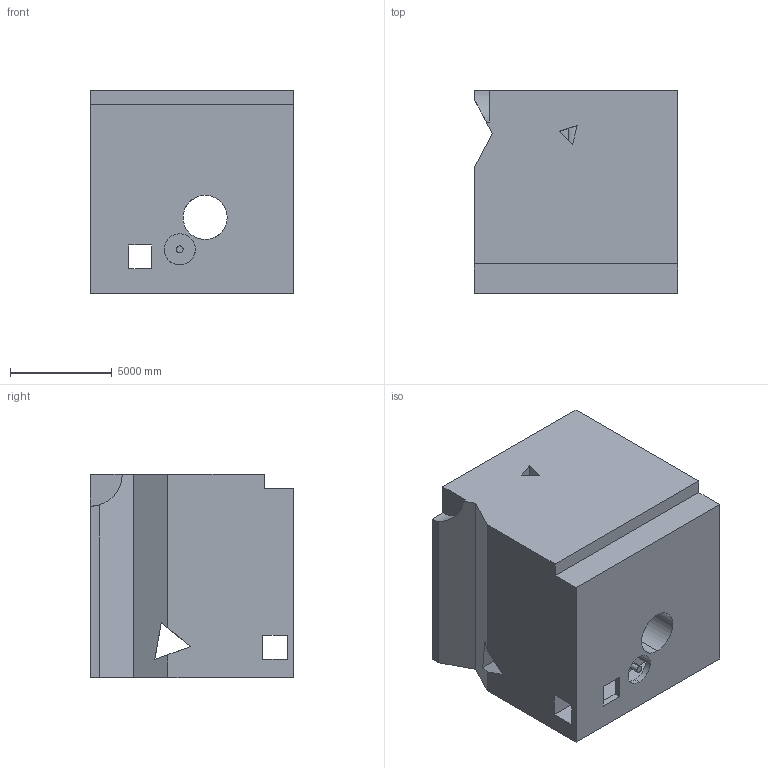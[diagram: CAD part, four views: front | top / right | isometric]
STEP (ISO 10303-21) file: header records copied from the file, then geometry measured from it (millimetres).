
FILE_DESCRIPTION (( 'STEP AP203' ), '1' );
FILE_NAME ('94.STEP', '2022-08-30T14:34:12', ( 'user' ), ( '' ), 'SwSTEP 2.0', 'SolidWorks 2021', '' );
FILE_SCHEMA (( 'CONFIG_CONTROL_DESIGN' ));
Length unit declared in the file: centimetre
Products named in the file (1): 94
Bounding box: 10000 x 10000 x 10000 mm (x, y, z)
Volume: 880074191832.6 mm3; surface area: 843692896.1 mm2
Topology: 1 solids, 1 shells, 52 faces, 168 edges, 112 vertices
Faces by surface type: plane 41, cylinder 11
Entity records: 2095 total; most frequent: CARTESIAN_POINT 501, ORIENTED_EDGE 336, DIRECTION 292, EDGE_CURVE 168, LINE 126, VECTOR 126, VERTEX_POINT 112, AXIS2_PLACEMENT_3D 83
